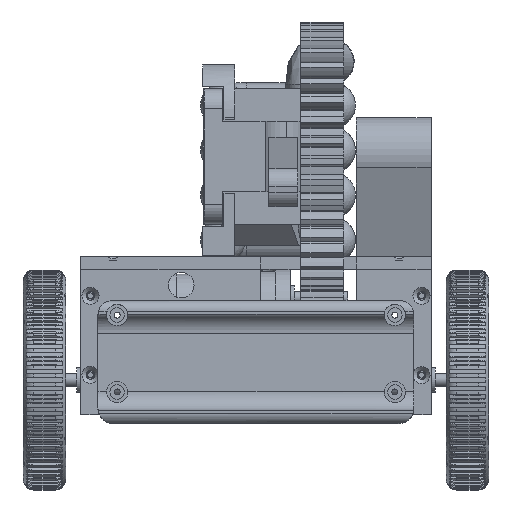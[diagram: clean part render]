
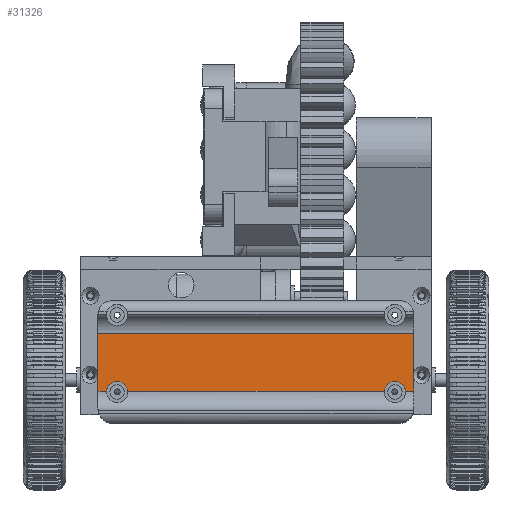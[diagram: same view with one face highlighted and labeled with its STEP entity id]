
A CAD part, left-side view. The second image highlights one B-rep face of the part: STEP entity #31326.
In plain terms, the highlighted planar face has unit normal (-1, 0, 0) as drawn and (0, 0, 1) by its records, which use the part's own axes.
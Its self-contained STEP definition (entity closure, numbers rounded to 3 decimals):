
#2169=PLANE('',#33443);
#3416=FACE_OUTER_BOUND('',#5222,.T.);
#5222=EDGE_LOOP('',(#23367,#23368,#23369,#23370,#23371,#23372,#23373,#23374));
#7634=LINE('',#96890,#9917);
#7636=LINE('',#96912,#9919);
#7637=LINE('',#96939,#9920);
#7645=LINE('',#97095,#9928);
#7649=LINE('',#97111,#9932);
#7650=LINE('',#97112,#9933);
#9917=VECTOR('',#37911,10.);
#9919=VECTOR('',#37917,10.);
#9920=VECTOR('',#37918,10.);
#9928=VECTOR('',#37952,10.);
#9932=VECTOR('',#37966,10.);
#9933=VECTOR('',#37967,10.);
#11715=CIRCLE('',#33422,5.);
#11718=CIRCLE('',#33427,5.);
#13509=VERTEX_POINT('',#96859);
#13511=VERTEX_POINT('',#96865);
#13512=VERTEX_POINT('',#96889);
#13517=VERTEX_POINT('',#96909);
#13518=VERTEX_POINT('',#96911);
#13520=VERTEX_POINT('',#96918);
#13536=VERTEX_POINT('',#97092);
#13537=VERTEX_POINT('',#97094);
#17144=EDGE_CURVE('',#13511,#13509,#11715,.T.);
#17147=EDGE_CURVE('',#13511,#13512,#7634,.T.);
#17153=EDGE_CURVE('',#13517,#13518,#7636,.T.);
#17156=EDGE_CURVE('',#13520,#13509,#7637,.T.);
#17157=EDGE_CURVE('',#13520,#13518,#11718,.T.);
#17179=EDGE_CURVE('',#13536,#13537,#7645,.T.);
#17186=EDGE_CURVE('',#13517,#13537,#7649,.F.);
#17187=EDGE_CURVE('',#13536,#13512,#7650,.F.);
#23367=ORIENTED_EDGE('',*,*,#17157,.T.);
#23368=ORIENTED_EDGE('',*,*,#17153,.F.);
#23369=ORIENTED_EDGE('',*,*,#17186,.T.);
#23370=ORIENTED_EDGE('',*,*,#17179,.F.);
#23371=ORIENTED_EDGE('',*,*,#17187,.T.);
#23372=ORIENTED_EDGE('',*,*,#17147,.F.);
#23373=ORIENTED_EDGE('',*,*,#17144,.T.);
#23374=ORIENTED_EDGE('',*,*,#17156,.F.);
#31326=ADVANCED_FACE('',(#3416),#2169,.F.);
#33422=AXIS2_PLACEMENT_3D('',#96866,#37906,#37907);
#33427=AXIS2_PLACEMENT_3D('',#96941,#37921,#37922);
#33443=AXIS2_PLACEMENT_3D('',#97110,#37964,#37965);
#37906=DIRECTION('center_axis',(0.,0.,-1.));
#37907=DIRECTION('ref_axis',(-1.,0.,0.));
#37911=DIRECTION('',(-1.,0.,0.));
#37917=DIRECTION('',(-1.,0.,0.));
#37918=DIRECTION('',(-1.,0.,0.));
#37921=DIRECTION('center_axis',(0.,0.,-1.));
#37922=DIRECTION('ref_axis',(-1.,0.,0.));
#37952=DIRECTION('',(1.,0.,0.));
#37964=DIRECTION('center_axis',(0.,0.,-1.));
#37965=DIRECTION('ref_axis',(1.,0.,0.));
#37966=DIRECTION('',(0.,-1.,0.));
#37967=DIRECTION('',(0.,1.,0.));
#96859=CARTESIAN_POINT('',(-65.487,7.615,-162.8));
#96865=CARTESIAN_POINT('',(-75.446,7.615,-162.8));
#96866=CARTESIAN_POINT('Origin',(-70.467,7.168,-162.8));
#96889=CARTESIAN_POINT('',(-79.5,7.615,-162.8));
#96890=CARTESIAN_POINT('',(25.5,7.615,-162.8));
#96909=CARTESIAN_POINT('',(68.5,7.615,-162.8));
#96911=CARTESIAN_POINT('',(64.513,7.615,-162.8));
#96912=CARTESIAN_POINT('',(25.5,7.615,-162.8));
#96918=CARTESIAN_POINT('',(54.554,7.615,-162.8));
#96939=CARTESIAN_POINT('',(25.5,7.615,-162.8));
#96941=CARTESIAN_POINT('Origin',(59.533,7.168,-162.8));
#97092=CARTESIAN_POINT('',(-79.5,34.615,-162.8));
#97094=CARTESIAN_POINT('',(68.5,34.615,-162.8));
#97095=CARTESIAN_POINT('',(-36.5,34.615,-162.8));
#97110=CARTESIAN_POINT('Origin',(-5.5,24.615,-162.8));
#97111=CARTESIAN_POINT('',(68.5,3.423,-162.8));
#97112=CARTESIAN_POINT('',(-79.5,42.308,-162.8));
